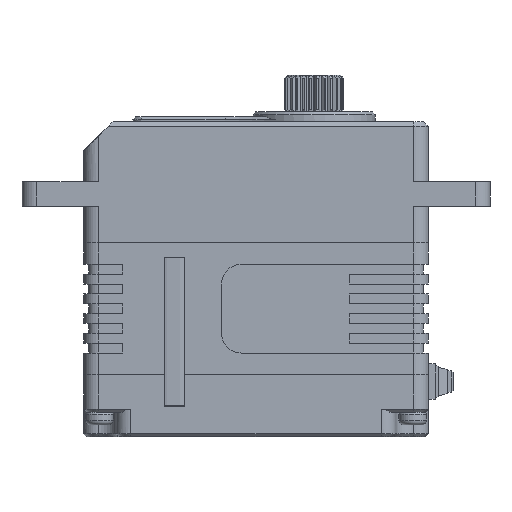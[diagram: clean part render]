
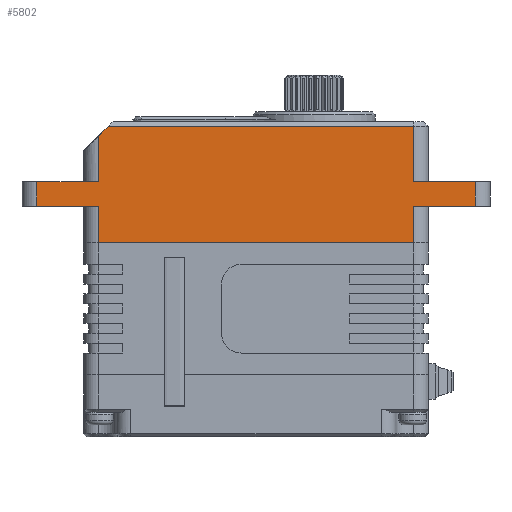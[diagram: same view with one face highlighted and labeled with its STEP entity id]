
A CAD part, front view. The second image highlights one B-rep face of the part: STEP entity #5802.
In plain terms, the highlighted planar face has unit normal (0, -1, 0).
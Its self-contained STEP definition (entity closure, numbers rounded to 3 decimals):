
#23 = CARTESIAN_POINT ( 'NONE',  ( -19.732, 1.484, 13. ) ) ;
#85 = ORIENTED_EDGE ( 'NONE', *, *, #6875, .T. ) ;
#376 = EDGE_CURVE ( 'NONE', #10459, #1406, #8620, .T. ) ;
#481 = EDGE_CURVE ( 'NONE', #15197, #11290, #867, .T. ) ;
#566 = CARTESIAN_POINT ( 'NONE',  ( -18.232, 1.484, 9.9 ) ) ;
#608 = VERTEX_POINT ( 'NONE', #5752 ) ;
#742 = CARTESIAN_POINT ( 'NONE',  ( 13.768, 1.484, 15.5 ) ) ;
#867 = LINE ( 'NONE', #4587, #8308 ) ;
#959 = ORIENTED_EDGE ( 'NONE', *, *, #9803, .T. ) ;
#1000 = EDGE_CURVE ( 'NONE', #24275, #18172, #26594, .T. ) ;
#1058 = ORIENTED_EDGE ( 'NONE', *, *, #20999, .F. ) ;
#1203 = CARTESIAN_POINT ( 'NONE',  ( -17.732, 1.484, 14.4 ) ) ;
#1406 = VERTEX_POINT ( 'NONE', #21031 ) ;
#1935 = VERTEX_POINT ( 'NONE', #7455 ) ;
#2050 = DIRECTION ( 'NONE',  ( 1., 0., 0. ) ) ;
#2145 = CARTESIAN_POINT ( 'NONE',  ( -25.982, 1.484, 9.9 ) ) ;
#2338 = DIRECTION ( 'NONE',  ( -1., 0., 0. ) ) ;
#2675 = DIRECTION ( 'NONE',  ( 0., 0., -1. ) ) ;
#3016 = LINE ( 'NONE', #2145, #12724 ) ;
#3097 = VECTOR ( 'NONE', #14095, 1000. ) ;
#3517 = CARTESIAN_POINT ( 'NONE',  ( 21.518, 1.484, 9.9 ) ) ;
#3830 = CARTESIAN_POINT ( 'NONE',  ( 15.268, 1.484, 3.7 ) ) ;
#3878 = LINE ( 'NONE', #14266, #24489 ) ;
#3950 = DIRECTION ( 'NONE',  ( 0., 0., 1. ) ) ;
#4225 = CARTESIAN_POINT ( 'NONE',  ( -17.732, 1.484, 15.5 ) ) ;
#4429 = VECTOR ( 'NONE', #2675, 1000. ) ;
#4587 = CARTESIAN_POINT ( 'NONE',  ( -25.982, 1.484, 7.4 ) ) ;
#4873 = ORIENTED_EDGE ( 'NONE', *, *, #10758, .F. ) ;
#5532 = VECTOR ( 'NONE', #9732, 1000. ) ;
#5752 = CARTESIAN_POINT ( 'NONE',  ( -17.232, 1.484, 15.5 ) ) ;
#5802 = ADVANCED_FACE ( 'NONE', ( #22932 ), #15532, .F. ) ;
#6028 = LINE ( 'NONE', #23, #10585 ) ;
#6297 = EDGE_LOOP ( 'NONE', ( #959, #12239, #8165, #8765, #4873, #85, #25777, #20607, #8004, #21960, #1058, #12963, #16230 ) ) ;
#6680 = DIRECTION ( 'NONE',  ( 1., 0., 0. ) ) ;
#6875 = EDGE_CURVE ( 'NONE', #1935, #15197, #14480, .T. ) ;
#6938 = VECTOR ( 'NONE', #22481, 1000. ) ;
#7455 = CARTESIAN_POINT ( 'NONE',  ( -24.482, 1.484, 9.9 ) ) ;
#8004 = ORIENTED_EDGE ( 'NONE', *, *, #1000, .F. ) ;
#8165 = ORIENTED_EDGE ( 'NONE', *, *, #15044, .T. ) ;
#8308 = VECTOR ( 'NONE', #6680, 1000. ) ;
#8511 = LINE ( 'NONE', #14897, #18810 ) ;
#8620 = LINE ( 'NONE', #3517, #3097 ) ;
#8641 = EDGE_CURVE ( 'NONE', #17851, #19414, #15988, .T. ) ;
#8765 = ORIENTED_EDGE ( 'NONE', *, *, #8641, .T. ) ;
#9021 = EDGE_CURVE ( 'NONE', #15761, #608, #16622, .T. ) ;
#9575 = DIRECTION ( 'NONE',  ( -0.707, 0., -0.707 ) ) ;
#9721 = VERTEX_POINT ( 'NONE', #17917 ) ;
#9732 = DIRECTION ( 'NONE',  ( 0., 0., 1. ) ) ;
#9736 = LINE ( 'NONE', #9918, #5532 ) ;
#9803 = EDGE_CURVE ( 'NONE', #1406, #15761, #21657, .T. ) ;
#9882 = EDGE_CURVE ( 'NONE', #24275, #22799, #9736, .T. ) ;
#9918 = CARTESIAN_POINT ( 'NONE',  ( 13.768, 1.484, 7.4 ) ) ;
#10158 = LINE ( 'NONE', #15613, #18518 ) ;
#10459 = VERTEX_POINT ( 'NONE', #13048 ) ;
#10585 = VECTOR ( 'NONE', #9575, 1000. ) ;
#10758 = EDGE_CURVE ( 'NONE', #1935, #19414, #3016, .T. ) ;
#11138 = VECTOR ( 'NONE', #2338, 1000. ) ;
#11290 = VERTEX_POINT ( 'NONE', #22806 ) ;
#12239 = ORIENTED_EDGE ( 'NONE', *, *, #9021, .T. ) ;
#12270 = CARTESIAN_POINT ( 'NONE',  ( -18.232, 1.484, 3.7 ) ) ;
#12724 = VECTOR ( 'NONE', #2050, 1000. ) ;
#12963 = ORIENTED_EDGE ( 'NONE', *, *, #16096, .T. ) ;
#12965 = CARTESIAN_POINT ( 'NONE',  ( 13.768, 1.484, 3.7 ) ) ;
#13048 = CARTESIAN_POINT ( 'NONE',  ( 20.018, 1.484, 9.9 ) ) ;
#13465 = CARTESIAN_POINT ( 'NONE',  ( 13.768, 1.484, 16. ) ) ;
#13673 = DIRECTION ( 'NONE',  ( 0., 0., 1. ) ) ;
#14095 = DIRECTION ( 'NONE',  ( -1., 0., 0. ) ) ;
#14266 = CARTESIAN_POINT ( 'NONE',  ( 20.018, 1.484, 9.9 ) ) ;
#14480 = LINE ( 'NONE', #23200, #4429 ) ;
#14897 = CARTESIAN_POINT ( 'NONE',  ( -18.232, 1.484, 3.7 ) ) ;
#14945 = VECTOR ( 'NONE', #25942, 1000. ) ;
#15044 = EDGE_CURVE ( 'NONE', #608, #17851, #6028, .T. ) ;
#15197 = VERTEX_POINT ( 'NONE', #21273 ) ;
#15276 = DIRECTION ( 'NONE',  ( 0., 0., -1. ) ) ;
#15532 = PLANE ( 'NONE',  #24598 ) ;
#15613 = CARTESIAN_POINT ( 'NONE',  ( 21.518, 1.484, 7.4 ) ) ;
#15761 = VERTEX_POINT ( 'NONE', #742 ) ;
#15988 = LINE ( 'NONE', #23342, #17941 ) ;
#16096 = EDGE_CURVE ( 'NONE', #9721, #10459, #3878, .T. ) ;
#16230 = ORIENTED_EDGE ( 'NONE', *, *, #376, .T. ) ;
#16622 = LINE ( 'NONE', #4225, #11138 ) ;
#16765 = DIRECTION ( 'NONE',  ( 0., 0., -1. ) ) ;
#17851 = VERTEX_POINT ( 'NONE', #22712 ) ;
#17900 = CARTESIAN_POINT ( 'NONE',  ( 13.768, 1.484, 7.4 ) ) ;
#17917 = CARTESIAN_POINT ( 'NONE',  ( 20.018, 1.484, 7.4 ) ) ;
#17941 = VECTOR ( 'NONE', #15276, 1000. ) ;
#18172 = VERTEX_POINT ( 'NONE', #12270 ) ;
#18358 = EDGE_CURVE ( 'NONE', #11290, #18172, #8511, .T. ) ;
#18518 = VECTOR ( 'NONE', #25879, 1000. ) ;
#18810 = VECTOR ( 'NONE', #16765, 1000. ) ;
#19414 = VERTEX_POINT ( 'NONE', #566 ) ;
#20607 = ORIENTED_EDGE ( 'NONE', *, *, #18358, .T. ) ;
#20999 = EDGE_CURVE ( 'NONE', #9721, #22799, #10158, .T. ) ;
#21031 = CARTESIAN_POINT ( 'NONE',  ( 13.768, 1.484, 9.9 ) ) ;
#21273 = CARTESIAN_POINT ( 'NONE',  ( -24.482, 1.484, 7.4 ) ) ;
#21657 = LINE ( 'NONE', #13465, #14945 ) ;
#21960 = ORIENTED_EDGE ( 'NONE', *, *, #9882, .T. ) ;
#22481 = DIRECTION ( 'NONE',  ( -1., 0., 0. ) ) ;
#22712 = CARTESIAN_POINT ( 'NONE',  ( -18.232, 1.484, 14.5 ) ) ;
#22799 = VERTEX_POINT ( 'NONE', #17900 ) ;
#22806 = CARTESIAN_POINT ( 'NONE',  ( -18.232, 1.484, 7.4 ) ) ;
#22932 = FACE_OUTER_BOUND ( 'NONE', #6297, .T. ) ;
#23200 = CARTESIAN_POINT ( 'NONE',  ( -24.482, 1.484, 7.4 ) ) ;
#23342 = CARTESIAN_POINT ( 'NONE',  ( -18.232, 1.484, 9.9 ) ) ;
#24275 = VERTEX_POINT ( 'NONE', #12965 ) ;
#24489 = VECTOR ( 'NONE', #3950, 1000. ) ;
#24598 = AXIS2_PLACEMENT_3D ( 'NONE', #1203, #25895, #13673 ) ;
#25777 = ORIENTED_EDGE ( 'NONE', *, *, #481, .T. ) ;
#25879 = DIRECTION ( 'NONE',  ( -1., 0., 0. ) ) ;
#25895 = DIRECTION ( 'NONE',  ( 0., 1., 0. ) ) ;
#25942 = DIRECTION ( 'NONE',  ( 0., 0., 1. ) ) ;
#26594 = LINE ( 'NONE', #3830, #6938 ) ;
